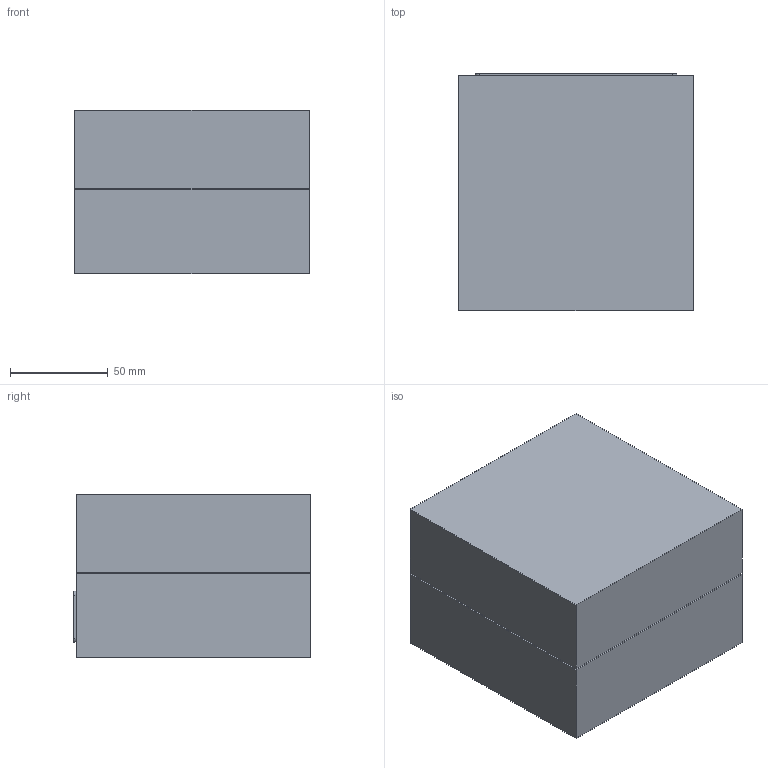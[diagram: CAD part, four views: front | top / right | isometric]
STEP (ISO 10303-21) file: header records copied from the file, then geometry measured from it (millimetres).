
FILE_DESCRIPTION(/* description */ (''),/* implementation_level */ '2;1');
FILE_NAME(/* name */ 'cini&nils-Roma_parete-3d',/* time_stamp */ '2022-02-04T16:19:23+01:00',/* author */ (''),/* organization */ (''),/* preprocessor_version */ 'ST-DEVELOPER v15',/* originating_system */ '',/* authorisation */ '');
FILE_SCHEMA (('AUTOMOTIVE_DESIGN'));
Length unit declared in the file: millimetre
Products named in the file (1): Document
Bounding box: 120 x 121.52 x 83.5 mm (x, y, z)
Volume: 1196032 mm3; surface area: 99547 mm2
Topology: 1 solids, 1 shells, 86 faces, 220 edges, 150 vertices
Faces by surface type: plane 49, bspline 37
Entity records: 2748 total; most frequent: CARTESIAN_POINT 1329, ORIENTED_EDGE 440, EDGE_CURVE 220, VERTEX_POINT 150, B_SPLINE_CURVE_WITH_KNOTS 134, EDGE_LOOP 104, ADVANCED_FACE 86, FACE_OUTER_BOUND 86
